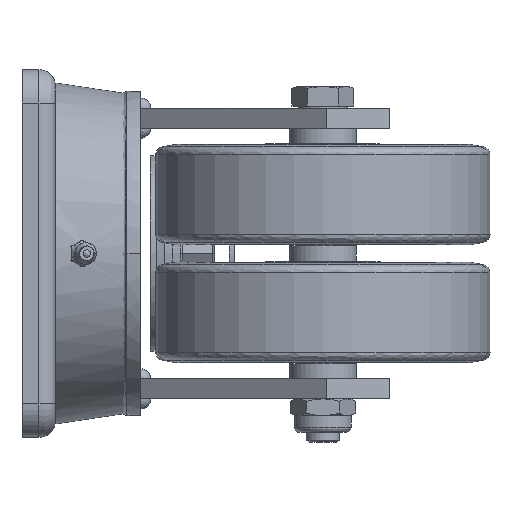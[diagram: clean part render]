
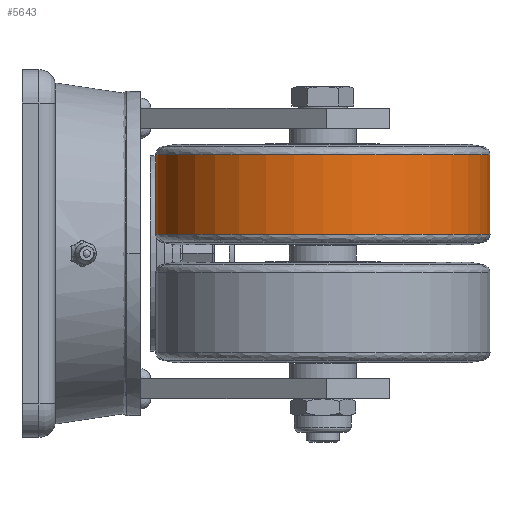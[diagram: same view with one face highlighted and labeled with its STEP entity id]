
A CAD part, left-side view. The second image highlights one B-rep face of the part: STEP entity #5643.
In plain terms, the highlighted cylindrical face has radius 50 mm (diameter 100 mm), a full revolution.
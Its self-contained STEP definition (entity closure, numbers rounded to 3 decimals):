
#5578=CARTESIAN_POINT('',(-62.5,8.,5.781));
#5579=VERTEX_POINT('',#5578);
#5587=CARTESIAN_POINT('',(-62.5,-92.,5.781));
#5588=VERTEX_POINT('',#5587);
#5589=CARTESIAN_POINT('',(-62.5,-42.,5.781));
#5590=DIRECTION('',(0.0,0.,-1.));
#5591=DIRECTION('',(0.0,1.,0.));
#5592=AXIS2_PLACEMENT_3D('',#5589,#5590,#5591);
#5593=CIRCLE('',#5592,50.);
#5594=EDGE_CURVE('',#5579,#5588,#5593,.T.);
#5596=CARTESIAN_POINT('',(-62.5,-42.,5.781));
#5597=DIRECTION('',(0.0,0.,-1.));
#5598=DIRECTION('',(0.0,1.,0.));
#5599=AXIS2_PLACEMENT_3D('',#5596,#5597,#5598);
#5600=CIRCLE('',#5599,50.);
#5601=EDGE_CURVE('',#5588,#5579,#5600,.T.);
#5609=CARTESIAN_POINT('',(-62.5,-42.,29.469));
#5610=DIRECTION('',(0.0,0.,-1.));
#5611=DIRECTION('',(0.0,1.,0.));
#5612=AXIS2_PLACEMENT_3D('',#5609,#5610,#5611);
#5613=CYLINDRICAL_SURFACE('',#5612,50.);
#5614=CARTESIAN_POINT('',(-62.5,8.,29.469));
#5615=VERTEX_POINT('',#5614);
#5616=CARTESIAN_POINT('',(-62.5,8.,5.781));
#5617=DIRECTION('',(0.0,0.,1.));
#5618=VECTOR('',#5617,23.689);
#5619=LINE('',#5616,#5618);
#5620=EDGE_CURVE('',#5579,#5615,#5619,.T.);
#5621=ORIENTED_EDGE('',*,*,#5620,.T.);
#5622=CARTESIAN_POINT('',(-62.5,-92.,29.469));
#5623=VERTEX_POINT('',#5622);
#5624=CARTESIAN_POINT('',(-62.5,-42.,29.469));
#5625=DIRECTION('',(0.0,0.,-1.));
#5626=DIRECTION('',(0.0,1.,0.));
#5627=AXIS2_PLACEMENT_3D('',#5624,#5625,#5626);
#5628=CIRCLE('',#5627,50.);
#5629=EDGE_CURVE('',#5615,#5623,#5628,.T.);
#5630=ORIENTED_EDGE('',*,*,#5629,.T.);
#5631=CARTESIAN_POINT('',(-62.5,-42.,29.469));
#5632=DIRECTION('',(0.0,0.,-1.));
#5633=DIRECTION('',(0.0,1.,0.));
#5634=AXIS2_PLACEMENT_3D('',#5631,#5632,#5633);
#5635=CIRCLE('',#5634,50.);
#5636=EDGE_CURVE('',#5623,#5615,#5635,.T.);
#5637=ORIENTED_EDGE('',*,*,#5636,.T.);
#5638=ORIENTED_EDGE('',*,*,#5620,.F.);
#5639=ORIENTED_EDGE('',*,*,#5601,.F.);
#5640=ORIENTED_EDGE('',*,*,#5594,.F.);
#5641=EDGE_LOOP('',(#5621,#5630,#5637,#5638,#5639,#5640));
#5642=FACE_OUTER_BOUND('',#5641,.T.);
#5643=ADVANCED_FACE('',(#5642),#5613,.T.);
